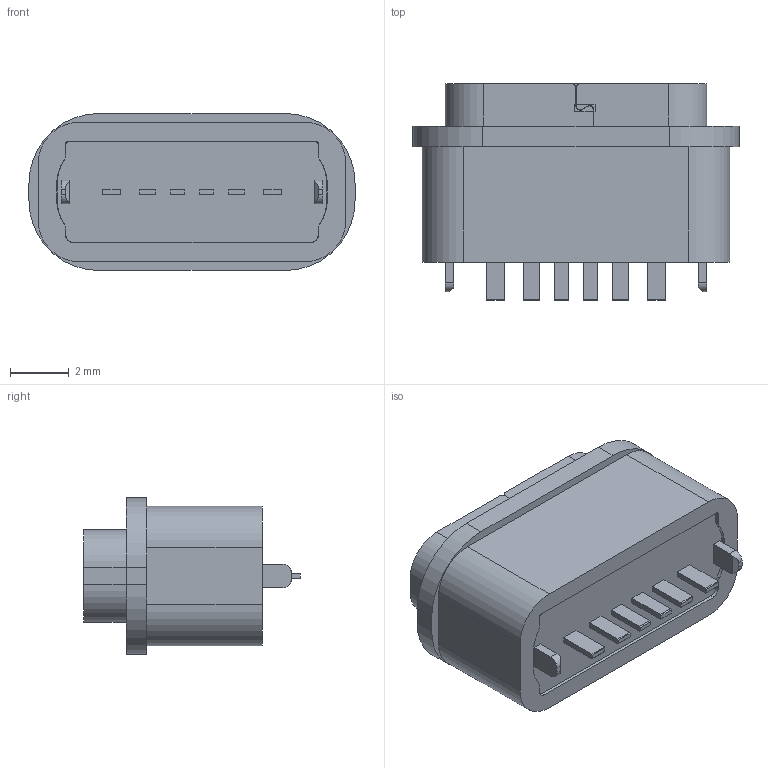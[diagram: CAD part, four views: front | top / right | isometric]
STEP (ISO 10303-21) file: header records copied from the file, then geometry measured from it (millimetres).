
FILE_DESCRIPTION((''),'2;1');
FILE_NAME('TYPE_C_6PH_6_00002','2023-11-13T16:45:26',('Administrator'),(''),'CREO PARAMETRIC BY PTC INC, 2019080','CREO PARAMETRIC BY PTC INC, 2019080','');
FILE_SCHEMA(('CONFIG_CONTROL_DESIGN'));
Length unit declared in the file: millimetre
Products named in the file (1): TYPE_C_6PH_6_00002
Bounding box: 11.14 x 7.4 x 5.36 mm (x, y, z)
Volume: 196.3 mm3; surface area: 479.8 mm2
Topology: 1 solids, 5 shells, 661 faces, 1767 edges, 1152 vertices
Faces by surface type: plane 511, cylinder 116, cone 22, torus 12
Entity records: 20414 total; most frequent: CARTESIAN_POINT 3653, ORIENTED_EDGE 3534, DIRECTION 3337, EDGE_CURVE 1767, VECTOR 1483, LINE 1483, VERTEX_POINT 1152, AXIS2_PLACEMENT_3D 927
